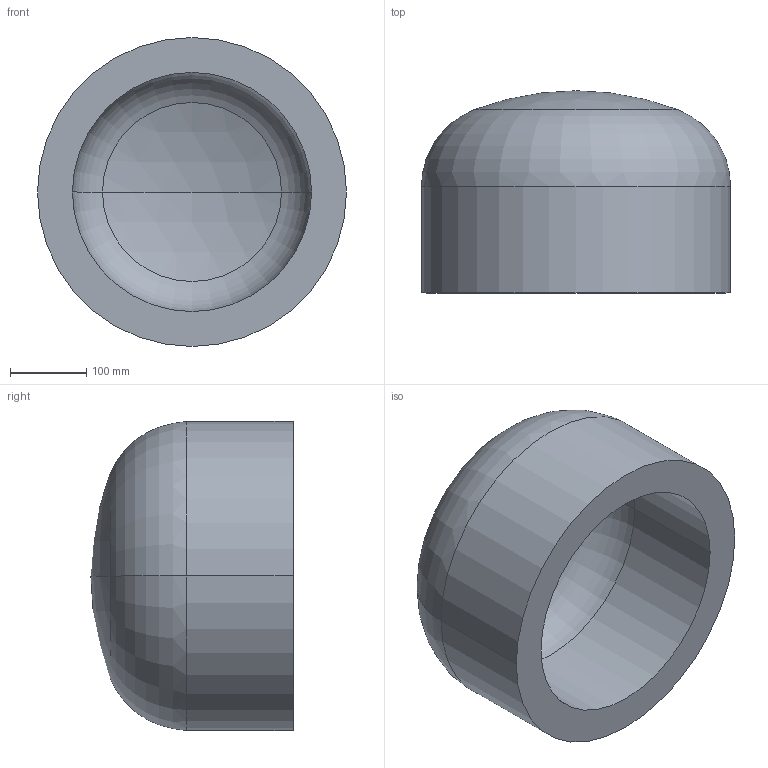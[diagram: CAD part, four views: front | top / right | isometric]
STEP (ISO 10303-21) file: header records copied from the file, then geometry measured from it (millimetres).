
FILE_DESCRIPTION (( 'STEP AP203' ), '1' );
FILE_NAME ('DIN 28013 Korbbogenform_-_Boden DIN 28013 - 406,4 x 140 - I - s=46.step', '2016-07-01T07:51:18', ( '' ), ( '' ), 'SwSTEP 2.0', 'SolidWorks 2013', '' );
FILE_SCHEMA (( 'CONFIG_CONTROL_DESIGN' ));
Length unit declared in the file: millimetre
Products named in the file (1): DIN 28013 Korbbogenform_-_Boden DIN 28013 - 406,4 x 140 - I - s=46
Bounding box: 406.4 x 265.83 x 406.4 mm (x, y, z)
Volume: 14470261.6 mm3; surface area: 685656.1 mm2
Topology: 1 solids, 1 shells, 13 faces, 24 edges, 14 vertices
Faces by surface type: torus 4, cylinder 4, sphere 4, plane 1
Entity records: 407 total; most frequent: DIRECTION 72, CARTESIAN_POINT 52, ORIENTED_EDGE 48, AXIS2_PLACEMENT_3D 34, EDGE_CURVE 24, CIRCLE 20, EDGE_LOOP 14, VERTEX_POINT 14
